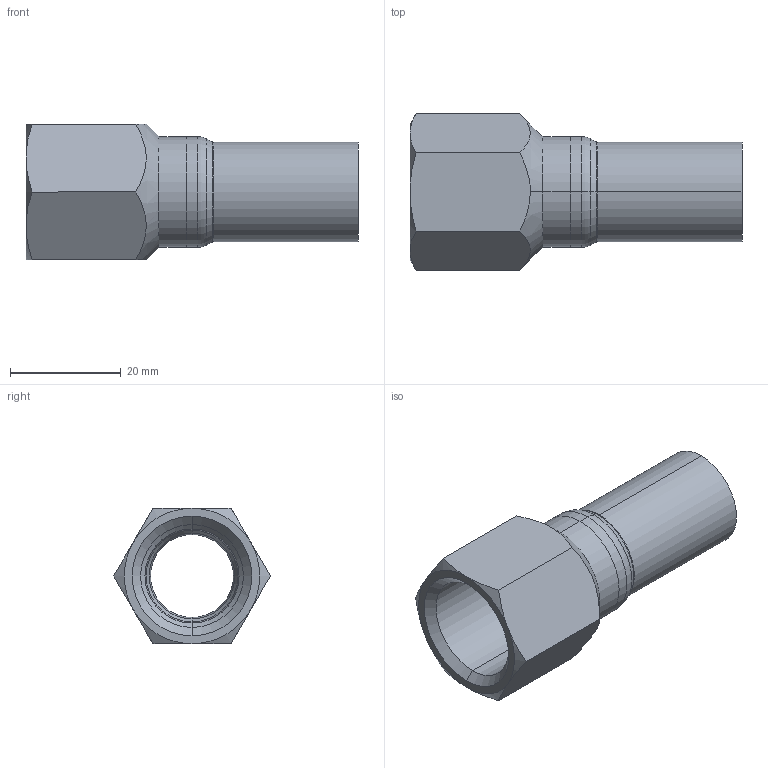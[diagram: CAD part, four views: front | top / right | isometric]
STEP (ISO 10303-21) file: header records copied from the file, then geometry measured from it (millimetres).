
FILE_DESCRIPTION (( 'STEP AP203' ), '1' );
FILE_NAME ('GDA6383.STEP', '2019-01-14T05:21:24', ( '' ), ( '' ), 'SwSTEP 2.0', 'SolidWorks 2015', '' );
FILE_SCHEMA (( 'CONFIG_CONTROL_DESIGN' ));
Length unit declared in the file: millimetre
Products named in the file (3): GDA6383; 18｡ﾁ20; ITC-I-03-18℅?
Assembly tree (2 placements, depth 2):
  GDA6383
    18｡ﾁ20
    ITC-I-03-18℅?
Bounding box: 60 x 28.29 x 24.5 mm (x, y, z)
Volume: 8698.3 mm3; surface area: 7765.1 mm2
Topology: 2 solids, 2 shells, 48 faces, 102 edges, 58 vertices
Faces by surface type: cone 16, cylinder 14, plane 10, torus 8
Entity records: 1699 total; most frequent: CARTESIAN_POINT 361, DIRECTION 240, ORIENTED_EDGE 204, AXIS2_PLACEMENT_3D 105, EDGE_CURVE 102, VERTEX_POINT 58, CIRCLE 52, EDGE_LOOP 52
